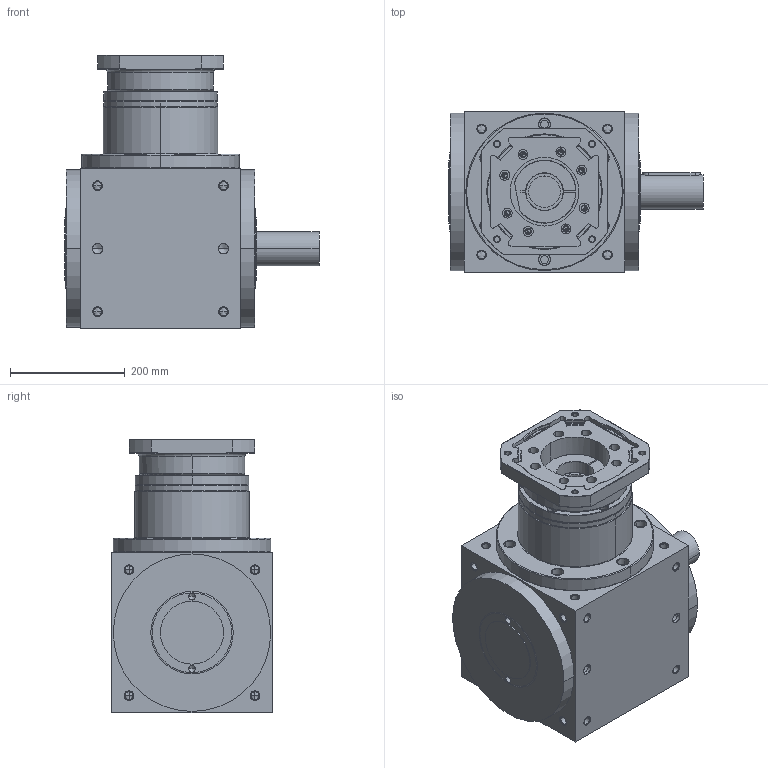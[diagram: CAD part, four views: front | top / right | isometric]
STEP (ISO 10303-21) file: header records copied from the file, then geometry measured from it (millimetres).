
FILE_DESCRIPTION((''),'2;1');
FILE_NAME('ATB280FR11-P0403700201_ASM','2014-07-30T',('d01544'),('APEX'),'PRO/ENGINEER BY PARAMETRIC TECHNOLOGY CORPORATION, 2008410','PRO/ENGINEER BY PARAMETRIC TECHNOLOGY CORPORATION, 2008410','');
FILE_SCHEMA(('CONFIG_CONTROL_DESIGN'));
Length unit declared in the file: millimetre
Products named in the file (6): ATB280FR1-A; P1820A00001; P1502A00001; P0501700001; P0403700201; ATB280FR11-P0403700201_ASM
Assembly tree (5 placements, depth 2):
  ATB280FR11-P0403700201_ASM
    ATB280FR1-A
    P1820A00001
    P1502A00001
    P0501700001
    P0403700201
Bounding box: 444 x 280 x 478 mm (x, y, z)
Volume: 28938713.5 mm3; surface area: 1150778.9 mm2
Topology: 5 solids, 49 shells, 901 faces, 2275 edges, 1399 vertices
Faces by surface type: cylinder 405, cone 290, plane 144, torus 60, bspline 2
Entity records: 28317 total; most frequent: CARTESIAN_POINT 6342, DIRECTION 4908, ORIENTED_EDGE 4218, EDGE_CURVE 2197, AXIS2_PLACEMENT_3D 2054, VERTEX_POINT 1399, CIRCLE 1134, EDGE_LOOP 1102
